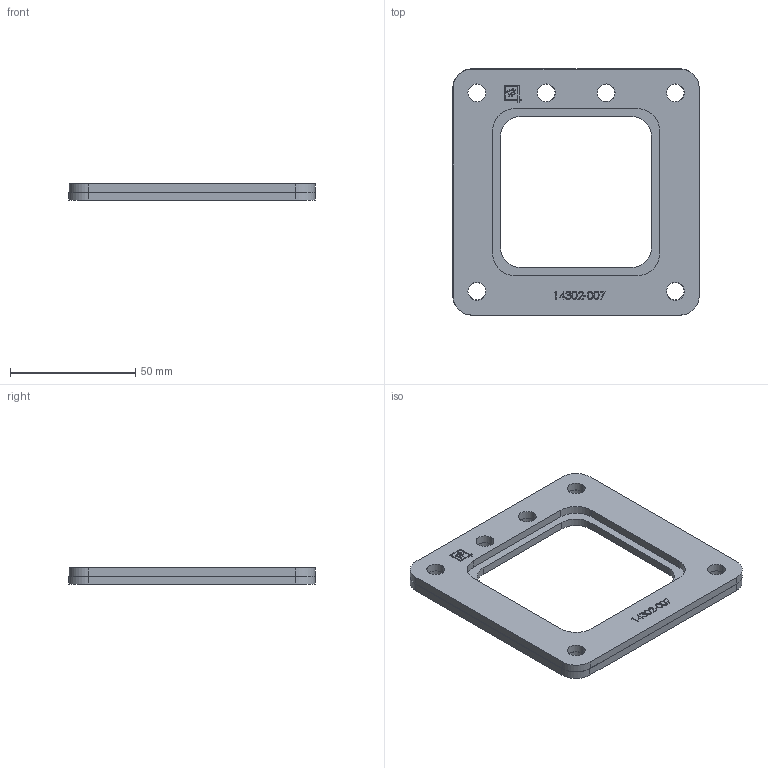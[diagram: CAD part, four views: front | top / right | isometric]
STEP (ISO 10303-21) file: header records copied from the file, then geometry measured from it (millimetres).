
FILE_DESCRIPTION (( 'STEP AP203' ), '1' );
FILE_NAME ('f22lb.STEP', '2013-02-07T20:40:59', ( 'User' ), ( 'Pentair Inc' ), 'SwSTEP 2.0', 'SolidWorks 2010', '' );
FILE_SCHEMA (( 'CONFIG_CONTROL_DESIGN' ));
Length unit declared in the file: inch
Products named in the file (3): f22lb; 14302007; 14304002
Assembly tree (2 placements, depth 2):
  f22lb
    14304002
    14302007
Bounding box: 98.55 x 98.55 x 6.43 mm (x, y, z)
Volume: 34772.7 mm3; surface area: 26599.6 mm2
Topology: 2 solids, 2 shells, 211 faces, 573 edges, 382 vertices
Faces by surface type: plane 91, bspline 80, cylinder 40
Entity records: 11378 total; most frequent: CARTESIAN_POINT 6155, ORIENTED_EDGE 1146, DIRECTION 765, EDGE_CURVE 573, VERTEX_POINT 382, LINE 333, VECTOR 333, EDGE_LOOP 255
